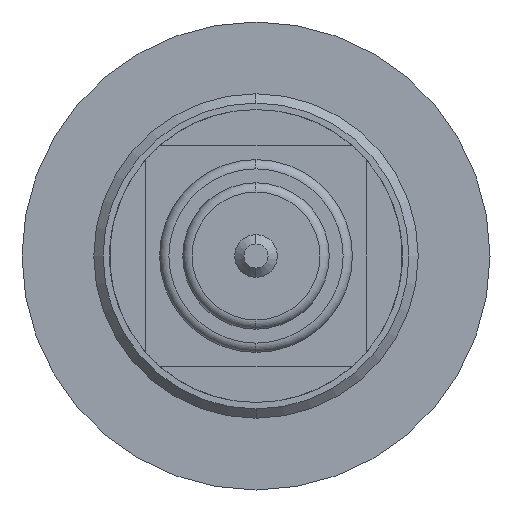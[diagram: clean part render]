
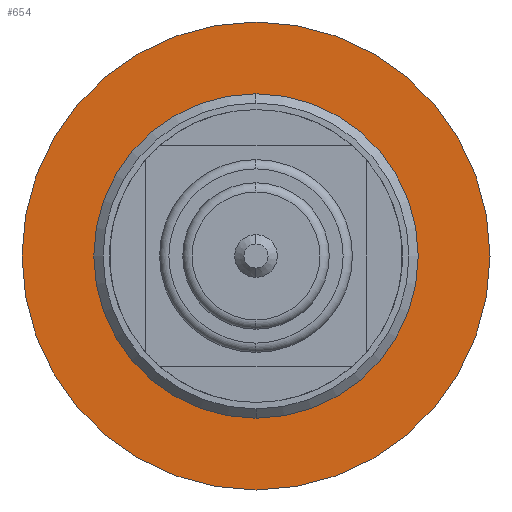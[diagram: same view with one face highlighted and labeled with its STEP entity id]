
A CAD part, left-side view. The second image highlights one B-rep face of the part: STEP entity #654.
In plain terms, the highlighted planar face has unit normal (-1, 0, 0).
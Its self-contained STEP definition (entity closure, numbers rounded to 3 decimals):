
#13 = CARTESIAN_POINT ( 'NONE',  ( 0., 0., 8.75 ) ) ;
#32 = AXIS2_PLACEMENT_3D ( 'NONE', #787, #523, #1197 ) ;
#44 = VERTEX_POINT ( 'NONE', #517 ) ;
#84 = AXIS2_PLACEMENT_3D ( 'NONE', #1246, #565, #274 ) ;
#228 = CARTESIAN_POINT ( 'NONE',  ( 0., 12.625, 0. ) ) ;
#239 = EDGE_CURVE ( 'NONE', #1006, #734, #1009, .T. ) ;
#271 = CIRCLE ( 'NONE', #586, 12.625 ) ;
#274 = DIRECTION ( 'NONE',  ( 0., 0., -1. ) ) ;
#316 = FACE_BOUND ( 'NONE', #852, .T. ) ;
#507 = PLANE ( 'NONE',  #1212 ) ;
#517 = CARTESIAN_POINT ( 'NONE',  ( 0., 0., -12.625 ) ) ;
#523 = DIRECTION ( 'NONE',  ( 1., 0., 0. ) ) ;
#544 = CARTESIAN_POINT ( 'NONE',  ( 0., 0., 0. ) ) ;
#547 = AXIS2_PLACEMENT_3D ( 'NONE', #544, #1081, #581 ) ;
#565 = DIRECTION ( 'NONE',  ( 1., 0., 0. ) ) ;
#578 = VERTEX_POINT ( 'NONE', #693 ) ;
#581 = DIRECTION ( 'NONE',  ( 0., 0., -1. ) ) ;
#586 = AXIS2_PLACEMENT_3D ( 'NONE', #1135, #708, #608 ) ;
#608 = DIRECTION ( 'NONE',  ( 0., 0., -1. ) ) ;
#654 = ADVANCED_FACE ( 'NONE', ( #316, #664 ), #507, .T. ) ;
#664 = FACE_OUTER_BOUND ( 'NONE', #855, .T. ) ;
#689 = CIRCLE ( 'NONE', #547, 8.75 ) ;
#693 = CARTESIAN_POINT ( 'NONE',  ( 0., 0., 12.625 ) ) ;
#708 = DIRECTION ( 'NONE',  ( 1., 0., 0. ) ) ;
#729 = ORIENTED_EDGE ( 'NONE', *, *, #900, .F. ) ;
#734 = VERTEX_POINT ( 'NONE', #13 ) ;
#763 = EDGE_CURVE ( 'NONE', #44, #578, #998, .T. ) ;
#787 = CARTESIAN_POINT ( 'NONE',  ( 0., 0., 0. ) ) ;
#852 = EDGE_LOOP ( 'NONE', ( #1159, #1021 ) ) ;
#855 = EDGE_LOOP ( 'NONE', ( #1183, #729 ) ) ;
#900 = EDGE_CURVE ( 'NONE', #578, #44, #271, .T. ) ;
#998 = CIRCLE ( 'NONE', #32, 12.625 ) ;
#1006 = VERTEX_POINT ( 'NONE', #1234 ) ;
#1009 = CIRCLE ( 'NONE', #84, 8.75 ) ;
#1021 = ORIENTED_EDGE ( 'NONE', *, *, #1239, .T. ) ;
#1081 = DIRECTION ( 'NONE',  ( 1., 0., 0. ) ) ;
#1135 = CARTESIAN_POINT ( 'NONE',  ( 0., 0., 0. ) ) ;
#1159 = ORIENTED_EDGE ( 'NONE', *, *, #239, .T. ) ;
#1183 = ORIENTED_EDGE ( 'NONE', *, *, #763, .F. ) ;
#1197 = DIRECTION ( 'NONE',  ( 0., 0., -1. ) ) ;
#1198 = DIRECTION ( 'NONE',  ( -1., 0., 0. ) ) ;
#1203 = DIRECTION ( 'NONE',  ( 0., 0., 1. ) ) ;
#1212 = AXIS2_PLACEMENT_3D ( 'NONE', #228, #1198, #1203 ) ;
#1234 = CARTESIAN_POINT ( 'NONE',  ( 0., 0., -8.75 ) ) ;
#1239 = EDGE_CURVE ( 'NONE', #734, #1006, #689, .T. ) ;
#1246 = CARTESIAN_POINT ( 'NONE',  ( 0., 0., 0. ) ) ;
